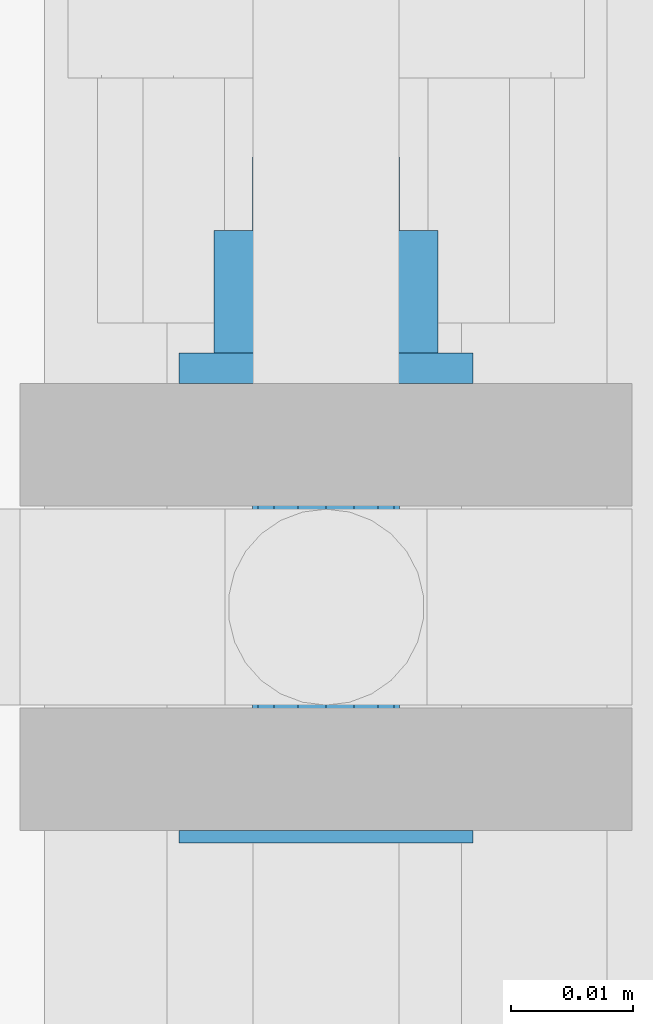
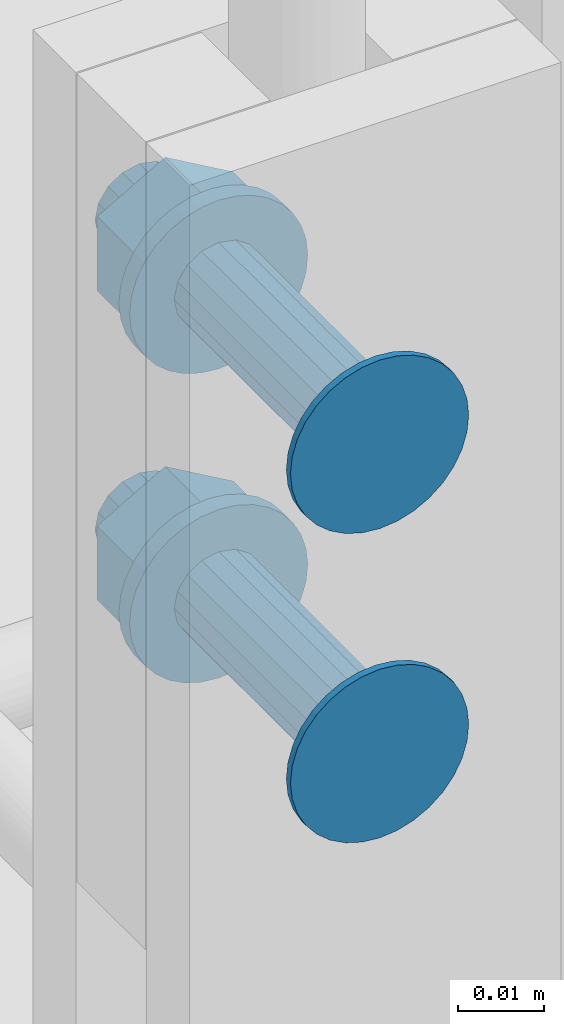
# One storey, part 68 of 98: 1 mechanical fastener.
"""IFC2X3 building model written with IfcOpenShell, lengths in millimetres."""

from ifc_helpers import new_model, entity, si_unit, converted_unit, origin_with_axes, place, context, project, spatial, faceted_brep, element, save


model = new_model("IFC2X3")

# Units and contexts
model_context = context("Model", 3, precision=1e-09, world=origin_with_axes())
ifc_project = project(units=[si_unit("LENGTHUNIT", "METRE", prefix="MILLI"), si_unit("AREAUNIT", "SQUARE_METRE"), si_unit("VOLUMEUNIT", "CUBIC_METRE"), converted_unit("PLANEANGLEUNIT", "DEGREE", entity("IfcPlaneAngleMeasure", 0.01745329), si_unit("PLANEANGLEUNIT", "RADIAN"), dimensions=[0, 0, 0, 0, 0, 0, 0])], contexts=[model_context])

# Site, building, storey
site_placement = place(None, origin_with_axes())
site = spatial("IfcSite", under=ifc_project, at=site_placement, Name="Maybachstra?e 2, 71563 Affalterbach", CompositionType="ELEMENT")
building_placement = place(site_placement, origin_with_axes())
building = spatial("IfcBuilding", under=site, at=building_placement, Name="Struktur 1", CompositionType="ELEMENT")
storey_placement = place(building_placement, origin_with_axes())
storey = spatial("IfcBuildingStorey", under=building, at=storey_placement, Name="Default Storey", CompositionType="ELEMENT", Elevation=0.0)

# Mechanical fastener
mechanical_fastener_placement = place(None, origin_with_axes())
element("IfcMechanicalFastener", 1, at=mechanical_fastener_placement, inside=storey, ObjectType="-", NominalDiameter=12.0, NominalLength=55.0, context=model_context, shape_type="Brep", body=[
    faceted_brep([(7309.028157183, -151.25, 4342.6), (7309.028157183, -150.25, 4342.6), (7309.258733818, -150.25, 4340.258916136), (7309.258733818, -151.25, 4340.258916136), (7309.941602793, -150.25, 4338.007798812), (7309.941602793, -151.25, 4338.007798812), (7311.050521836, -150.25, 4335.933157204), (7311.050521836, -151.25, 4335.933157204), (7312.542875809, -150.25, 4334.114718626), (7312.542875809, -151.25, 4334.114718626), (7314.361314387, -150.25, 4332.622364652), (7314.361314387, -151.25, 4332.622364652), (7316.435955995, -150.25, 4331.51344561), (7316.435955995, -151.25, 4331.51344561), (7318.687073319, -150.25, 4330.830576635), (7318.687073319, -151.25, 4330.830576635), (7321.028157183, -150.25, 4330.6), (7321.028157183, -151.25, 4330.6), (7323.369241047, -150.25, 4330.830576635), (7323.369241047, -151.25, 4330.830576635), (7325.620358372, -150.25, 4331.51344561), (7325.620358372, -151.25, 4331.51344561), (7327.694999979, -150.25, 4332.622364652), (7327.694999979, -151.25, 4332.622364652), (7329.513438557, -150.25, 4334.114718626), (7329.513438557, -151.25, 4334.114718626), (7331.005792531, -150.25, 4335.933157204), (7331.005792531, -151.25, 4335.933157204), (7332.114711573, -150.25, 4338.007798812), (7332.114711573, -151.25, 4338.007798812), (7332.797580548, -150.25, 4340.258916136), (7332.797580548, -151.25, 4340.258916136), (7333.028157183, -150.25, 4342.6), (7333.028157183, -151.25, 4342.6), (7332.797580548, -150.25, 4344.941083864), (7332.797580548, -151.25, 4344.941083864), (7332.114711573, -150.25, 4347.192201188), (7332.114711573, -151.25, 4347.192201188), (7331.005792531, -150.25, 4349.266842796), (7331.005792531, -151.25, 4349.266842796), (7329.513438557, -150.25, 4351.085281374), (7329.513438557, -151.25, 4351.085281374), (7327.694999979, -150.25, 4352.577635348), (7327.694999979, -151.25, 4352.577635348), (7325.620358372, -150.25, 4353.68655439), (7325.620358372, -151.25, 4353.68655439), (7323.369241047, -150.25, 4354.369423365), (7323.369241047, -151.25, 4354.369423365), (7321.028157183, -150.25, 4354.6), (7321.028157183, -151.25, 4354.6), (7318.687073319, -150.25, 4354.369423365), (7318.687073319, -151.25, 4354.369423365), (7316.435955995, -150.25, 4353.68655439), (7316.435955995, -151.25, 4353.68655439), (7314.361314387, -150.25, 4352.577635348), (7314.361314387, -151.25, 4352.577635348), (7312.542875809, -150.25, 4351.085281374), (7312.542875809, -151.25, 4351.085281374), (7311.050521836, -150.25, 4349.266842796), (7311.050521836, -151.25, 4349.266842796), (7309.941602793, -150.25, 4347.192201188), (7309.941602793, -151.25, 4347.192201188), (7309.258733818, -150.25, 4344.941083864), (7309.258733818, -151.25, 4344.941083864)], [[[0, 1, 2, 3]], [[3, 2, 4, 5]], [[5, 4, 6, 7]], [[7, 6, 8, 9]], [[9, 8, 10, 11]], [[11, 10, 12, 13]], [[13, 12, 14, 15]], [[15, 14, 16, 17]], [[17, 16, 18, 19]], [[19, 18, 20, 21]], [[21, 20, 22, 23]], [[23, 22, 24, 25]], [[25, 24, 26, 27]], [[27, 26, 28, 29]], [[29, 28, 30, 31]], [[31, 30, 32, 33]], [[33, 32, 34, 35]], [[35, 34, 36, 37]], [[37, 36, 38, 39]], [[39, 38, 40, 41]], [[41, 40, 42, 43]], [[43, 42, 44, 45]], [[45, 44, 46, 47]], [[47, 46, 48, 49]], [[49, 48, 50, 51]], [[51, 50, 52, 53]], [[53, 52, 54, 55]], [[55, 54, 56, 57]], [[57, 56, 58, 59]], [[59, 58, 60, 61]], [[61, 60, 62, 63]], [[63, 62, 1, 0]], [[0, 3, 5, 7, 9, 11, 13, 15, 17, 19, 21, 23, 25, 27, 29, 31, 33, 35, 37, 39, 41, 43, 45, 47, 49, 51, 53, 55, 57, 59, 61, 63]], [[1, 62, 60, 58, 56, 54, 52, 50, 48, 46, 44, 42, 40, 38, 36, 34, 32, 30, 28, 26, 24, 22, 20, 18, 16, 14, 12, 10, 8, 6, 4, 2]]]),
    faceted_brep([(7309.028157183, -151.25, 4298.6), (7309.028157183, -150.25, 4298.6), (7309.258733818, -150.25, 4296.258916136), (7309.258733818, -151.25, 4296.258916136), (7309.941602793, -150.25, 4294.007798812), (7309.941602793, -151.25, 4294.007798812), (7311.050521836, -150.25, 4291.933157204), (7311.050521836, -151.25, 4291.933157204), (7312.542875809, -150.25, 4290.114718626), (7312.542875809, -151.25, 4290.114718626), (7314.361314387, -150.25, 4288.622364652), (7314.361314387, -151.25, 4288.622364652), (7316.435955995, -150.25, 4287.51344561), (7316.435955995, -151.25, 4287.51344561), (7318.687073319, -150.25, 4286.830576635), (7318.687073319, -151.25, 4286.830576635), (7321.028157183, -150.25, 4286.6), (7321.028157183, -151.25, 4286.6), (7323.369241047, -150.25, 4286.830576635), (7323.369241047, -151.25, 4286.830576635), (7325.620358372, -150.25, 4287.51344561), (7325.620358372, -151.25, 4287.51344561), (7327.694999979, -150.25, 4288.622364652), (7327.694999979, -151.25, 4288.622364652), (7329.513438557, -150.25, 4290.114718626), (7329.513438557, -151.25, 4290.114718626), (7331.005792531, -150.25, 4291.933157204), (7331.005792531, -151.25, 4291.933157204), (7332.114711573, -150.25, 4294.007798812), (7332.114711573, -151.25, 4294.007798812), (7332.797580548, -150.25, 4296.258916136), (7332.797580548, -151.25, 4296.258916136), (7333.028157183, -150.25, 4298.6), (7333.028157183, -151.25, 4298.6), (7332.797580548, -150.25, 4300.941083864), (7332.797580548, -151.25, 4300.941083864), (7332.114711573, -150.25, 4303.192201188), (7332.114711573, -151.25, 4303.192201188), (7331.005792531, -150.25, 4305.266842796), (7331.005792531, -151.25, 4305.266842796), (7329.513438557, -150.25, 4307.085281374), (7329.513438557, -151.25, 4307.085281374), (7327.694999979, -150.25, 4308.577635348), (7327.694999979, -151.25, 4308.577635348), (7325.620358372, -150.25, 4309.68655439), (7325.620358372, -151.25, 4309.68655439), (7323.369241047, -150.25, 4310.369423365), (7323.369241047, -151.25, 4310.369423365), (7321.028157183, -150.25, 4310.6), (7321.028157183, -151.25, 4310.6), (7318.687073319, -150.25, 4310.369423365), (7318.687073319, -151.25, 4310.369423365), (7316.435955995, -150.25, 4309.68655439), (7316.435955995, -151.25, 4309.68655439), (7314.361314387, -150.25, 4308.577635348), (7314.361314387, -151.25, 4308.577635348), (7312.542875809, -150.25, 4307.085281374), (7312.542875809, -151.25, 4307.085281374), (7311.050521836, -150.25, 4305.266842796), (7311.050521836, -151.25, 4305.266842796), (7309.941602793, -150.25, 4303.192201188), (7309.941602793, -151.25, 4303.192201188), (7309.258733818, -150.25, 4300.941083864), (7309.258733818, -151.25, 4300.941083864)], [[[0, 1, 2, 3]], [[3, 2, 4, 5]], [[5, 4, 6, 7]], [[7, 6, 8, 9]], [[9, 8, 10, 11]], [[11, 10, 12, 13]], [[13, 12, 14, 15]], [[15, 14, 16, 17]], [[17, 16, 18, 19]], [[19, 18, 20, 21]], [[21, 20, 22, 23]], [[23, 22, 24, 25]], [[25, 24, 26, 27]], [[27, 26, 28, 29]], [[29, 28, 30, 31]], [[31, 30, 32, 33]], [[33, 32, 34, 35]], [[35, 34, 36, 37]], [[37, 36, 38, 39]], [[39, 38, 40, 41]], [[41, 40, 42, 43]], [[43, 42, 44, 45]], [[45, 44, 46, 47]], [[47, 46, 48, 49]], [[49, 48, 50, 51]], [[51, 50, 52, 53]], [[53, 52, 54, 55]], [[55, 54, 56, 57]], [[57, 56, 58, 59]], [[59, 58, 60, 61]], [[61, 60, 62, 63]], [[63, 62, 1, 0]], [[0, 3, 5, 7, 9, 11, 13, 15, 17, 19, 21, 23, 25, 27, 29, 31, 33, 35, 37, 39, 41, 43, 45, 47, 49, 51, 53, 55, 57, 59, 61, 63]], [[1, 62, 60, 58, 56, 54, 52, 50, 48, 46, 44, 42, 40, 38, 36, 34, 32, 30, 28, 26, 24, 22, 20, 18, 16, 14, 12, 10, 8, 6, 4, 2]]]),
    faceted_brep([(7315.028157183, -150.25, 4342.6), (7315.028157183, -113.75, 4342.6), (7315.484879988, -113.75, 4340.303899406), (7315.484879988, -150.25, 4340.303899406), (7316.785516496, -113.75, 4338.357359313), (7316.785516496, -150.25, 4338.357359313), (7318.732056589, -113.75, 4337.056722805), (7318.732056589, -150.25, 4337.056722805), (7321.028157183, -113.75, 4336.6), (7321.028157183, -150.25, 4336.6), (7323.324257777, -113.75, 4337.056722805), (7323.324257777, -150.25, 4337.056722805), (7325.27079787, -113.75, 4338.357359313), (7325.27079787, -150.25, 4338.357359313), (7326.571434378, -113.75, 4340.303899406), (7326.571434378, -150.25, 4340.303899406), (7327.028157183, -113.75, 4342.6), (7327.028157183, -150.25, 4342.6), (7326.571434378, -113.75, 4344.896100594), (7326.571434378, -150.25, 4344.896100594), (7325.27079787, -113.75, 4346.842640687), (7325.27079787, -150.25, 4346.842640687), (7323.324257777, -113.75, 4348.143277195), (7323.324257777, -150.25, 4348.143277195), (7321.028157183, -113.75, 4348.6), (7321.028157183, -150.25, 4348.6), (7318.732056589, -113.75, 4348.143277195), (7318.732056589, -150.25, 4348.143277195), (7316.785516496, -113.75, 4346.842640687), (7316.785516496, -150.25, 4346.842640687), (7315.484879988, -113.75, 4344.896100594), (7315.484879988, -150.25, 4344.896100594)], [[[0, 1, 2, 3]], [[3, 2, 4, 5]], [[5, 4, 6, 7]], [[7, 6, 8, 9]], [[9, 8, 10, 11]], [[11, 10, 12, 13]], [[13, 12, 14, 15]], [[15, 14, 16, 17]], [[17, 16, 18, 19]], [[19, 18, 20, 21]], [[21, 20, 22, 23]], [[23, 22, 24, 25]], [[25, 24, 26, 27]], [[27, 26, 28, 29]], [[29, 28, 30, 31]], [[31, 30, 1, 0]], [[0, 3, 5, 7, 9, 11, 13, 15, 17, 19, 21, 23, 25, 27, 29, 31]], [[1, 30, 28, 26, 24, 22, 20, 18, 16, 14, 12, 10, 8, 6, 4, 2]]]),
    faceted_brep([(7315.028157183, -150.25, 4298.6), (7315.028157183, -113.75, 4298.6), (7315.484879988, -113.75, 4296.303899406), (7315.484879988, -150.25, 4296.303899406), (7316.785516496, -113.75, 4294.357359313), (7316.785516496, -150.25, 4294.357359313), (7318.732056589, -113.75, 4293.056722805), (7318.732056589, -150.25, 4293.056722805), (7321.028157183, -113.75, 4292.6), (7321.028157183, -150.25, 4292.6), (7323.324257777, -113.75, 4293.056722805), (7323.324257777, -150.25, 4293.056722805), (7325.27079787, -113.75, 4294.357359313), (7325.27079787, -150.25, 4294.357359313), (7326.571434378, -113.75, 4296.303899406), (7326.571434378, -150.25, 4296.303899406), (7327.028157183, -113.75, 4298.6), (7327.028157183, -150.25, 4298.6), (7326.571434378, -113.75, 4300.896100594), (7326.571434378, -150.25, 4300.896100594), (7325.27079787, -113.75, 4302.842640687), (7325.27079787, -150.25, 4302.842640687), (7323.324257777, -113.75, 4304.143277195), (7323.324257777, -150.25, 4304.143277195), (7321.028157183, -113.75, 4304.6), (7321.028157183, -150.25, 4304.6), (7318.732056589, -113.75, 4304.143277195), (7318.732056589, -150.25, 4304.143277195), (7316.785516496, -113.75, 4302.842640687), (7316.785516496, -150.25, 4302.842640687), (7315.484879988, -113.75, 4300.896100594), (7315.484879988, -150.25, 4300.896100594)], [[[0, 1, 2, 3]], [[3, 2, 4, 5]], [[5, 4, 6, 7]], [[7, 6, 8, 9]], [[9, 8, 10, 11]], [[11, 10, 12, 13]], [[13, 12, 14, 15]], [[15, 14, 16, 17]], [[17, 16, 18, 19]], [[19, 18, 20, 21]], [[21, 20, 22, 23]], [[23, 22, 24, 25]], [[25, 24, 26, 27]], [[27, 26, 28, 29]], [[29, 28, 30, 31]], [[31, 30, 1, 0]], [[0, 3, 5, 7, 9, 11, 13, 15, 17, 19, 21, 23, 25, 27, 29, 31]], [[1, 30, 28, 26, 24, 22, 20, 18, 16, 14, 12, 10, 8, 6, 4, 2]]]),
    faceted_brep([(7309.028157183, -113.75, 4342.6), (7309.028157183, -111.25, 4342.6), (7309.258733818, -111.25, 4340.258916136), (7309.258733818, -113.75, 4340.258916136), (7309.941602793, -111.25, 4338.007798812), (7309.941602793, -113.75, 4338.007798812), (7311.050521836, -111.25, 4335.933157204), (7311.050521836, -113.75, 4335.933157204), (7312.542875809, -111.25, 4334.114718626), (7312.542875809, -113.75, 4334.114718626), (7314.361314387, -111.25, 4332.622364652), (7314.361314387, -113.75, 4332.622364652), (7316.435955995, -111.25, 4331.51344561), (7316.435955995, -113.75, 4331.51344561), (7318.687073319, -111.25, 4330.830576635), (7318.687073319, -113.75, 4330.830576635), (7321.028157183, -111.25, 4330.6), (7321.028157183, -113.75, 4330.6), (7323.369241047, -111.25, 4330.830576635), (7323.369241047, -113.75, 4330.830576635), (7325.620358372, -111.25, 4331.51344561), (7325.620358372, -113.75, 4331.51344561), (7327.694999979, -111.25, 4332.622364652), (7327.694999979, -113.75, 4332.622364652), (7329.513438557, -111.25, 4334.114718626), (7329.513438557, -113.75, 4334.114718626), (7331.005792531, -111.25, 4335.933157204), (7331.005792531, -113.75, 4335.933157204), (7332.114711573, -111.25, 4338.007798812), (7332.114711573, -113.75, 4338.007798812), (7332.797580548, -111.25, 4340.258916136), (7332.797580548, -113.75, 4340.258916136), (7333.028157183, -111.25, 4342.6), (7333.028157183, -113.75, 4342.6), (7332.797580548, -111.25, 4344.941083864), (7332.797580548, -113.75, 4344.941083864), (7332.114711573, -111.25, 4347.192201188), (7332.114711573, -113.75, 4347.192201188), (7331.005792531, -111.25, 4349.266842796), (7331.005792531, -113.75, 4349.266842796), (7329.513438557, -111.25, 4351.085281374), (7329.513438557, -113.75, 4351.085281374), (7327.694999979, -111.25, 4352.577635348), (7327.694999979, -113.75, 4352.577635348), (7325.620358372, -111.25, 4353.68655439), (7325.620358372, -113.75, 4353.68655439), (7323.369241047, -111.25, 4354.369423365), (7323.369241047, -113.75, 4354.369423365), (7321.028157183, -111.25, 4354.6), (7321.028157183, -113.75, 4354.6), (7318.687073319, -111.25, 4354.369423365), (7318.687073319, -113.75, 4354.369423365), (7316.435955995, -111.25, 4353.68655439), (7316.435955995, -113.75, 4353.68655439), (7314.361314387, -111.25, 4352.577635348), (7314.361314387, -113.75, 4352.577635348), (7312.542875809, -111.25, 4351.085281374), (7312.542875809, -113.75, 4351.085281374), (7311.050521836, -111.25, 4349.266842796), (7311.050521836, -113.75, 4349.266842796), (7309.941602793, -111.25, 4347.192201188), (7309.941602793, -113.75, 4347.192201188), (7309.258733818, -111.25, 4344.941083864), (7309.258733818, -113.75, 4344.941083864)], [[[0, 1, 2, 3]], [[3, 2, 4, 5]], [[5, 4, 6, 7]], [[7, 6, 8, 9]], [[9, 8, 10, 11]], [[11, 10, 12, 13]], [[13, 12, 14, 15]], [[15, 14, 16, 17]], [[17, 16, 18, 19]], [[19, 18, 20, 21]], [[21, 20, 22, 23]], [[23, 22, 24, 25]], [[25, 24, 26, 27]], [[27, 26, 28, 29]], [[29, 28, 30, 31]], [[31, 30, 32, 33]], [[33, 32, 34, 35]], [[35, 34, 36, 37]], [[37, 36, 38, 39]], [[39, 38, 40, 41]], [[41, 40, 42, 43]], [[43, 42, 44, 45]], [[45, 44, 46, 47]], [[47, 46, 48, 49]], [[49, 48, 50, 51]], [[51, 50, 52, 53]], [[53, 52, 54, 55]], [[55, 54, 56, 57]], [[57, 56, 58, 59]], [[59, 58, 60, 61]], [[61, 60, 62, 63]], [[63, 62, 1, 0]], [[0, 3, 5, 7, 9, 11, 13, 15, 17, 19, 21, 23, 25, 27, 29, 31, 33, 35, 37, 39, 41, 43, 45, 47, 49, 51, 53, 55, 57, 59, 61, 63]], [[1, 62, 60, 58, 56, 54, 52, 50, 48, 46, 44, 42, 40, 38, 36, 34, 32, 30, 28, 26, 24, 22, 20, 18, 16, 14, 12, 10, 8, 6, 4, 2]]]),
    faceted_brep([(7309.028157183, -113.75, 4298.6), (7309.028157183, -111.25, 4298.6), (7309.258733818, -111.25, 4296.258916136), (7309.258733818, -113.75, 4296.258916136), (7309.941602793, -111.25, 4294.007798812), (7309.941602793, -113.75, 4294.007798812), (7311.050521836, -111.25, 4291.933157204), (7311.050521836, -113.75, 4291.933157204), (7312.542875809, -111.25, 4290.114718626), (7312.542875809, -113.75, 4290.114718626), (7314.361314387, -111.25, 4288.622364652), (7314.361314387, -113.75, 4288.622364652), (7316.435955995, -111.25, 4287.51344561), (7316.435955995, -113.75, 4287.51344561), (7318.687073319, -111.25, 4286.830576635), (7318.687073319, -113.75, 4286.830576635), (7321.028157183, -111.25, 4286.6), (7321.028157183, -113.75, 4286.6), (7323.369241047, -111.25, 4286.830576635), (7323.369241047, -113.75, 4286.830576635), (7325.620358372, -111.25, 4287.51344561), (7325.620358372, -113.75, 4287.51344561), (7327.694999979, -111.25, 4288.622364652), (7327.694999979, -113.75, 4288.622364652), (7329.513438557, -111.25, 4290.114718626), (7329.513438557, -113.75, 4290.114718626), (7331.005792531, -111.25, 4291.933157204), (7331.005792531, -113.75, 4291.933157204), (7332.114711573, -111.25, 4294.007798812), (7332.114711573, -113.75, 4294.007798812), (7332.797580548, -111.25, 4296.258916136), (7332.797580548, -113.75, 4296.258916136), (7333.028157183, -111.25, 4298.6), (7333.028157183, -113.75, 4298.6), (7332.797580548, -111.25, 4300.941083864), (7332.797580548, -113.75, 4300.941083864), (7332.114711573, -111.25, 4303.192201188), (7332.114711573, -113.75, 4303.192201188), (7331.005792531, -111.25, 4305.266842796), (7331.005792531, -113.75, 4305.266842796), (7329.513438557, -111.25, 4307.085281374), (7329.513438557, -113.75, 4307.085281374), (7327.694999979, -111.25, 4308.577635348), (7327.694999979, -113.75, 4308.577635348), (7325.620358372, -111.25, 4309.68655439), (7325.620358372, -113.75, 4309.68655439), (7323.369241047, -111.25, 4310.369423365), (7323.369241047, -113.75, 4310.369423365), (7321.028157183, -111.25, 4310.6), (7321.028157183, -113.75, 4310.6), (7318.687073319, -111.25, 4310.369423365), (7318.687073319, -113.75, 4310.369423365), (7316.435955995, -111.25, 4309.68655439), (7316.435955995, -113.75, 4309.68655439), (7314.361314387, -111.25, 4308.577635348), (7314.361314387, -113.75, 4308.577635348), (7312.542875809, -111.25, 4307.085281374), (7312.542875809, -113.75, 4307.085281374), (7311.050521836, -111.25, 4305.266842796), (7311.050521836, -113.75, 4305.266842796), (7309.941602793, -111.25, 4303.192201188), (7309.941602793, -113.75, 4303.192201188), (7309.258733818, -111.25, 4300.941083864), (7309.258733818, -113.75, 4300.941083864)], [[[0, 1, 2, 3]], [[3, 2, 4, 5]], [[5, 4, 6, 7]], [[7, 6, 8, 9]], [[9, 8, 10, 11]], [[11, 10, 12, 13]], [[13, 12, 14, 15]], [[15, 14, 16, 17]], [[17, 16, 18, 19]], [[19, 18, 20, 21]], [[21, 20, 22, 23]], [[23, 22, 24, 25]], [[25, 24, 26, 27]], [[27, 26, 28, 29]], [[29, 28, 30, 31]], [[31, 30, 32, 33]], [[33, 32, 34, 35]], [[35, 34, 36, 37]], [[37, 36, 38, 39]], [[39, 38, 40, 41]], [[41, 40, 42, 43]], [[43, 42, 44, 45]], [[45, 44, 46, 47]], [[47, 46, 48, 49]], [[49, 48, 50, 51]], [[51, 50, 52, 53]], [[53, 52, 54, 55]], [[55, 54, 56, 57]], [[57, 56, 58, 59]], [[59, 58, 60, 61]], [[61, 60, 62, 63]], [[63, 62, 1, 0]], [[0, 3, 5, 7, 9, 11, 13, 15, 17, 19, 21, 23, 25, 27, 29, 31, 33, 35, 37, 39, 41, 43, 45, 47, 49, 51, 53, 55, 57, 59, 61, 63]], [[1, 62, 60, 58, 56, 54, 52, 50, 48, 46, 44, 42, 40, 38, 36, 34, 32, 30, 28, 26, 24, 22, 20, 18, 16, 14, 12, 10, 8, 6, 4, 2]]]),
    faceted_brep([(7330.164725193, -101.25, 4337.325), (7330.164725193, -111.25, 4337.325), (7321.028157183, -111.25, 4332.05), (7321.028157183, -101.25, 4332.05), (7311.891589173, -111.25, 4337.325), (7311.891589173, -101.25, 4337.325), (7311.891589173, -111.25, 4347.875), (7311.891589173, -101.25, 4347.875), (7321.028157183, -111.25, 4353.15), (7321.028157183, -101.25, 4353.15), (7330.164725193, -111.25, 4347.875), (7330.164725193, -101.25, 4347.875)], [[[0, 1, 2, 3]], [[3, 2, 4, 5]], [[5, 4, 6, 7]], [[7, 6, 8, 9]], [[9, 8, 10, 11]], [[11, 10, 1, 0]], [[4, 2, 1, 10, 8, 6]], [[0, 3, 5, 7, 9, 11]]]),
    faceted_brep([(7330.164725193, -101.25, 4293.325), (7330.164725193, -111.25, 4293.325), (7321.028157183, -111.25, 4288.05), (7321.028157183, -101.25, 4288.05), (7311.891589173, -111.25, 4293.325), (7311.891589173, -101.25, 4293.325), (7311.891589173, -111.25, 4303.875), (7311.891589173, -101.25, 4303.875), (7321.028157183, -111.25, 4309.15), (7321.028157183, -101.25, 4309.15), (7330.164725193, -111.25, 4303.875), (7330.164725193, -101.25, 4303.875)], [[[0, 1, 2, 3]], [[3, 2, 4, 5]], [[5, 4, 6, 7]], [[7, 6, 8, 9]], [[9, 8, 10, 11]], [[11, 10, 1, 0]], [[4, 2, 1, 10, 8, 6]], [[0, 3, 5, 7, 9, 11]]]),
    faceted_brep([(7315.028157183, -101.25, 4342.6), (7315.028157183, -95.25, 4342.6), (7315.484879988, -95.25, 4340.303899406), (7315.484879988, -101.25, 4340.303899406), (7316.785516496, -95.25, 4338.357359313), (7316.785516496, -101.25, 4338.357359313), (7318.732056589, -95.25, 4337.056722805), (7318.732056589, -101.25, 4337.056722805), (7321.028157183, -95.25, 4336.6), (7321.028157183, -101.25, 4336.6), (7323.324257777, -95.25, 4337.056722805), (7323.324257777, -101.25, 4337.056722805), (7325.27079787, -95.25, 4338.357359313), (7325.27079787, -101.25, 4338.357359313), (7326.571434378, -95.25, 4340.303899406), (7326.571434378, -101.25, 4340.303899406), (7327.028157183, -95.25, 4342.6), (7327.028157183, -101.25, 4342.6), (7326.571434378, -95.25, 4344.896100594), (7326.571434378, -101.25, 4344.896100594), (7325.27079787, -95.25, 4346.842640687), (7325.27079787, -101.25, 4346.842640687), (7323.324257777, -95.25, 4348.143277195), (7323.324257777, -101.25, 4348.143277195), (7321.028157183, -95.25, 4348.6), (7321.028157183, -101.25, 4348.6), (7318.732056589, -95.25, 4348.143277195), (7318.732056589, -101.25, 4348.143277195), (7316.785516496, -95.25, 4346.842640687), (7316.785516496, -101.25, 4346.842640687), (7315.484879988, -95.25, 4344.896100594), (7315.484879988, -101.25, 4344.896100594)], [[[0, 1, 2, 3]], [[3, 2, 4, 5]], [[5, 4, 6, 7]], [[7, 6, 8, 9]], [[9, 8, 10, 11]], [[11, 10, 12, 13]], [[13, 12, 14, 15]], [[15, 14, 16, 17]], [[17, 16, 18, 19]], [[19, 18, 20, 21]], [[21, 20, 22, 23]], [[23, 22, 24, 25]], [[25, 24, 26, 27]], [[27, 26, 28, 29]], [[29, 28, 30, 31]], [[31, 30, 1, 0]], [[0, 3, 5, 7, 9, 11, 13, 15, 17, 19, 21, 23, 25, 27, 29, 31]], [[1, 30, 28, 26, 24, 22, 20, 18, 16, 14, 12, 10, 8, 6, 4, 2]]]),
    faceted_brep([(7315.028157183, -101.25, 4298.6), (7315.028157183, -95.25, 4298.6), (7315.484879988, -95.25, 4296.303899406), (7315.484879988, -101.25, 4296.303899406), (7316.785516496, -95.25, 4294.357359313), (7316.785516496, -101.25, 4294.357359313), (7318.732056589, -95.25, 4293.056722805), (7318.732056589, -101.25, 4293.056722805), (7321.028157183, -95.25, 4292.6), (7321.028157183, -101.25, 4292.6), (7323.324257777, -95.25, 4293.056722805), (7323.324257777, -101.25, 4293.056722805), (7325.27079787, -95.25, 4294.357359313), (7325.27079787, -101.25, 4294.357359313), (7326.571434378, -95.25, 4296.303899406), (7326.571434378, -101.25, 4296.303899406), (7327.028157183, -95.25, 4298.6), (7327.028157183, -101.25, 4298.6), (7326.571434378, -95.25, 4300.896100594), (7326.571434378, -101.25, 4300.896100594), (7325.27079787, -95.25, 4302.842640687), (7325.27079787, -101.25, 4302.842640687), (7323.324257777, -95.25, 4304.143277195), (7323.324257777, -101.25, 4304.143277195), (7321.028157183, -95.25, 4304.6), (7321.028157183, -101.25, 4304.6), (7318.732056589, -95.25, 4304.143277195), (7318.732056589, -101.25, 4304.143277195), (7316.785516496, -95.25, 4302.842640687), (7316.785516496, -101.25, 4302.842640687), (7315.484879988, -95.25, 4300.896100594), (7315.484879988, -101.25, 4300.896100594)], [[[0, 1, 2, 3]], [[3, 2, 4, 5]], [[5, 4, 6, 7]], [[7, 6, 8, 9]], [[9, 8, 10, 11]], [[11, 10, 12, 13]], [[13, 12, 14, 15]], [[15, 14, 16, 17]], [[17, 16, 18, 19]], [[19, 18, 20, 21]], [[21, 20, 22, 23]], [[23, 22, 24, 25]], [[25, 24, 26, 27]], [[27, 26, 28, 29]], [[29, 28, 30, 31]], [[31, 30, 1, 0]], [[0, 3, 5, 7, 9, 11, 13, 15, 17, 19, 21, 23, 25, 27, 29, 31]], [[1, 30, 28, 26, 24, 22, 20, 18, 16, 14, 12, 10, 8, 6, 4, 2]]]),
])

save(model, "model.ifc")
